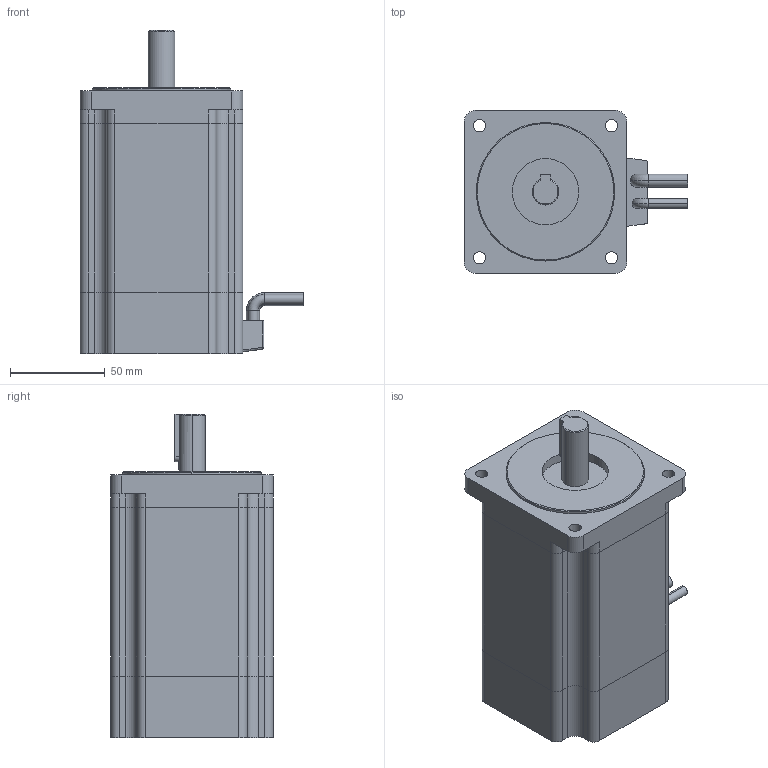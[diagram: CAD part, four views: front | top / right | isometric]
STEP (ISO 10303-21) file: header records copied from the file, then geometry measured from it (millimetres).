
FILE_DESCRIPTION (( 'STEP AP203' ), '1' );
FILE_NAME ('JK86BLS125-22.STEP', '2022-11-10T09:25:18', ( '' ), ( '' ), 'SwSTEP 2.0', 'SolidWorks 2020', '' );
FILE_SCHEMA (( 'CONFIG_CONTROL_DESIGN' ));
Length unit declared in the file: millimetre
Products named in the file (1): JK86BLS125-22
Bounding box: 117.94 x 85.8 x 170.5 mm (x, y, z)
Volume: 934468.9 mm3; surface area: 90865.6 mm2
Topology: 4 solids, 4 shells, 139 faces, 360 edges, 234 vertices
Faces by surface type: cylinder 68, plane 60, cone 5, torus 4, sphere 2
Entity records: 4391 total; most frequent: DIRECTION 778, CARTESIAN_POINT 777, ORIENTED_EDGE 720, EDGE_CURVE 360, AXIS2_PLACEMENT_3D 283, VERTEX_POINT 234, VECTOR 212, LINE 212
